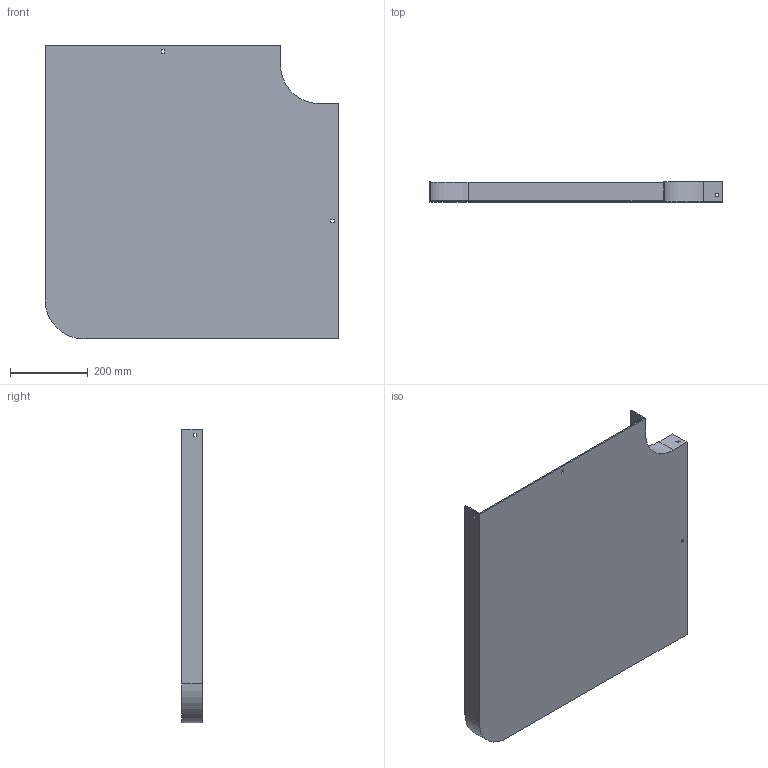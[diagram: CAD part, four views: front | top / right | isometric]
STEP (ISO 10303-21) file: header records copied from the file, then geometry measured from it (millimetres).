
FILE_DESCRIPTION (( 'STEP AP214' ), '1' );
FILE_NAME ('10B1B600.step', '2025-02-21T09:40:49', ( '' ), ( '' ), 'SwSTEP 2.0', 'SolidWorks 2023', '' );
FILE_SCHEMA (( 'AUTOMOTIVE_DESIGN' ));
Length unit declared in the file: millimetre
Products named in the file (1): 10B1B600
Bounding box: 754 x 52 x 754 mm (x, y, z)
Volume: 2202003 mm3; surface area: 1269915 mm2
Topology: 1 solids, 1 shells, 42 faces, 120 edges, 80 vertices
Faces by surface type: plane 38, cylinder 4
Entity records: 1399 total; most frequent: CARTESIAN_POINT 243, ORIENTED_EDGE 240, DIRECTION 214, EDGE_CURVE 120, LINE 112, VECTOR 112, VERTEX_POINT 80, EDGE_LOOP 54
